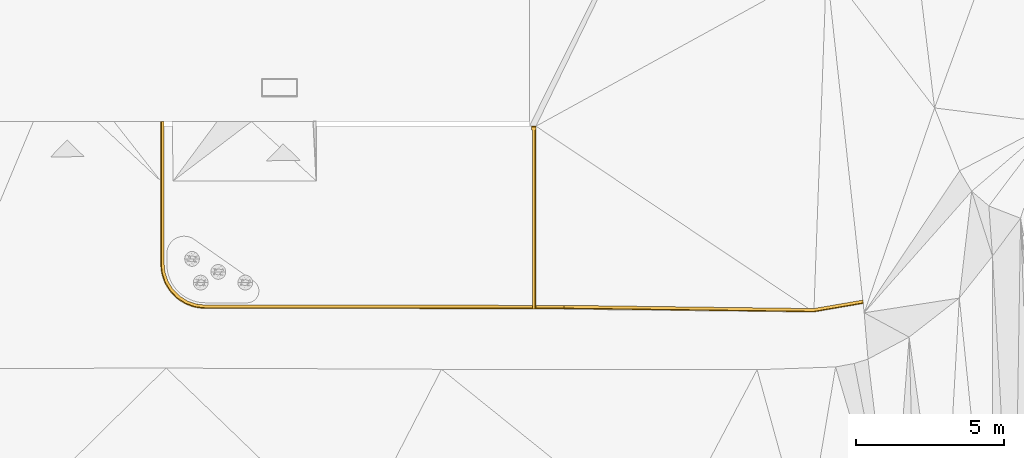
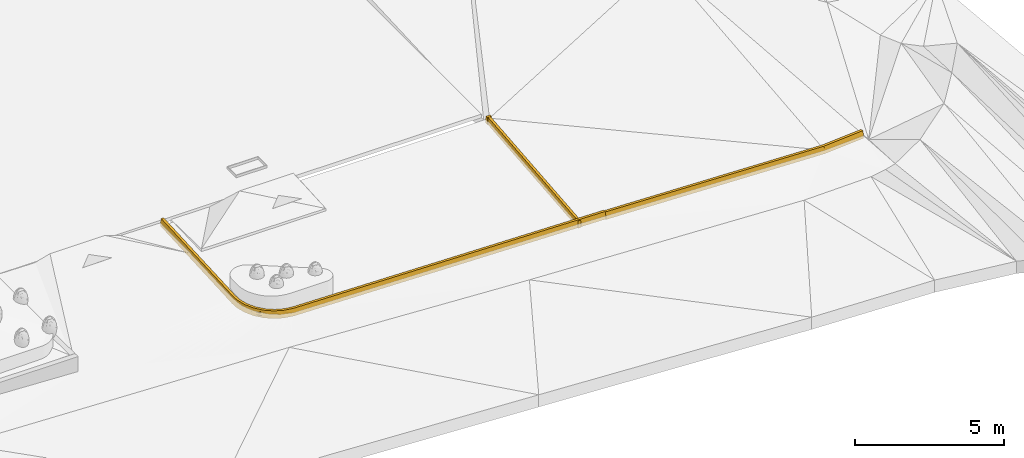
# One storey, part 20 of 23: 3 railings.
"""IFC2X3 building model written with IfcOpenShell, lengths in metres."""

from ifc_helpers import new_model, entity, si_unit, converted_unit, direction, frame, origin, place, context, subcontext, project, spatial, faceted_brep, material, type_object, element, save


model = new_model("IFC2X3")

# Units and contexts
model_context = context("Model", 3, precision=1e-05, world=origin(), true_north=direction((0.7716245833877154, 0.6360782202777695)))
body_context = subcontext(model_context, "Body", "Model", "MODEL_VIEW")
ifc_project = project(units=[si_unit("LENGTHUNIT", "METRE"), converted_unit("PLANEANGLEUNIT", "DEGREE", entity("IfcPlaneAngleMeasure", 0.017453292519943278), si_unit("PLANEANGLEUNIT", "RADIAN"), dimensions=[0, 0, 0, 0, 0, 0, 0]), si_unit("AREAUNIT", "SQUARE_METRE")], contexts=[model_context])

# Site, building, storey
site_placement = place(None, origin())
site = spatial("IfcSite", under=ifc_project, at=site_placement, Name="Default", CompositionType="ELEMENT")
building_placement = place(site_placement, origin())
building = spatial("IfcBuilding", under=site, at=building_placement, Name="<Building Name>", CompositionType="ELEMENT")
storey_placement = place(building_placement, origin())
storey = spatial("IfcBuildingStorey", under=building, at=storey_placement, Name="00 - HAV", CompositionType="ELEMENT", Elevation=0.0)

# Railings
ifc_material = material(Name="Site - Concrete - Curb")
railing_type = type_object("IfcRailingType", Name="Railing:760 Kantstein 120x300mm", PredefinedType="NOTDEFINED")
railing_1_placement = place(storey_placement, frame((279.1531523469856, 46.7718519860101, 29.797756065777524)))
element("IfcRailing", 1, at=railing_1_placement, inside=storey, type_object=railing_type, material=ifc_material, Name="Railing:760 Kantstein 120x300mm", ObjectType="Railing:760 Kantstein 120x300mm", PredefinedType="NOTDEFINED", context=body_context, shape_type="Brep", body=[
    faceted_brep([(10.076055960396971, 0.2878203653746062, 0.1586272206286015), (10.076055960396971, 0.28782036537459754, 0.0), (10.055723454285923, 0.4060852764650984, 0.0), (10.055723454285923, 0.40608527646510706, 0.30077601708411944), (10.071820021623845, 0.3124588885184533, 0.30077601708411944), (8.401936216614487, 0.0, 0.2808866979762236), (8.402266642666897, 0.025423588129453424, 0.42270201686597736), (8.40352226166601, 0.1220332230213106, 0.42143480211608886), (8.40352226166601, 0.12203322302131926, 0.12065878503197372), (8.401936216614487, 0.0, 0.12225947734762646)], [[[0, 1, 2, 3, 4]], [[5, 6, 7, 8, 9]], [[0, 4, 6, 5]], [[4, 3, 7, 6]], [[3, 2, 8, 7]], [[2, 1, 9, 8]], [[1, 0, 5, 9]]]),
    faceted_brep([(8.401949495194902, 0.001021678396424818, 0.2805829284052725), (8.401949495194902, 0.001021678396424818, 0.12232804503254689), (8.403508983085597, 0.12101154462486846, 0.12232804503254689), (8.403508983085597, 0.12101154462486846, 0.4223980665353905), (8.402274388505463, 0.02601956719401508, 0.4223980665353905), (0.0, 0.11022038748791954, 0.4621395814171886), (0.0003248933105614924, 0.13521827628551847, 0.6039547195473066), (0.0015594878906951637, 0.2302102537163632, 0.6039547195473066), (0.0015594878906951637, 0.2302102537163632, 0.30388469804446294), (0.0, 0.11022038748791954, 0.30388469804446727)], [[[0, 1, 2, 3, 4]], [[5, 6, 7, 8, 9]], [[0, 4, 6, 5]], [[4, 3, 7, 6]], [[3, 2, 8, 7]], [[2, 1, 9, 8]], [[1, 0, 5, 9]]]),
])
railing_2_placement = place(storey_placement, frame((278.0531523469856, 46.88207237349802, 30.1203354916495)))
element("IfcRailing", 2, at=railing_2_placement, inside=storey, type_object=railing_type, material=ifc_material, Name="Railing:760 Kantstein 120x300mm", ObjectType="Railing:760 Kantstein 120x300mm", PredefinedType="NOTDEFINED", context=body_context, shape_type="Brep", body=[
    faceted_brep([(0.15000000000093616, 0.0, 0.158941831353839), (0.1250000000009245, 0.0, 0.3013725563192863), (0.030000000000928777, 0.0, 0.3013725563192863), (0.030000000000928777, 0.0, 0.0), (0.1500000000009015, 0.0, 0.0), (0.15000000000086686, 6.030120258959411, 0.7364280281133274), (0.1500000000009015, 6.030120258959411, 0.5774861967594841), (0.030000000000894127, 6.030120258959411, 0.5774861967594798), (0.030000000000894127, 6.030120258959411, 0.8788587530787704), (0.12500000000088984, 6.030120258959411, 0.8788587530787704)], [[[0, 1, 2, 3, 4]], [[5, 6, 7, 8, 9]], [[1, 0, 5, 9]], [[2, 1, 9, 8]], [[3, 2, 8, 7]], [[4, 3, 7, 6]], [[0, 4, 6, 5]]]),
    faceted_brep([(0.15000000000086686, 6.150120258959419, 0.7478824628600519), (0.15000000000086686, 6.125120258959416, 0.8896645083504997), (0.15000000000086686, 6.030120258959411, 0.8896645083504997), (0.15000000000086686, 6.030120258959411, 0.5896645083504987), (0.15000000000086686, 6.150120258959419, 0.5896645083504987), (0.0, 6.150120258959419, 0.7478824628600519), (0.0, 6.15012025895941, 0.5896645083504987), (0.0, 6.030120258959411, 0.5896645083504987), (0.0, 6.030120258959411, 0.8896645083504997), (0.0, 6.125120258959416, 0.8896645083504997)], [[[0, 1, 2, 3, 4]], [[5, 6, 7, 8, 9]], [[1, 0, 5, 9]], [[2, 1, 9, 8]], [[3, 2, 8, 7]], [[4, 3, 7, 6]], [[0, 4, 6, 5]]]),
])
railing_3_placement = place(storey_placement, frame((265.56063656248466, 46.882072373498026, 30.12426063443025)))
element("IfcRailing", 3, at=railing_3_placement, inside=storey, type_object=railing_type, material=ifc_material, Name="Railing:760 Kantstein 120x300mm", ObjectType="Railing:760 Kantstein 120x300mm", PredefinedType="NOTDEFINED", context=body_context, shape_type="Brep", body=[
    faceted_brep([(13.592515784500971, 0.0, 0.15825297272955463), (13.592515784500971, 0.0, 0.0), (13.592612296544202, 0.1199999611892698, 0.0), (13.592612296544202, 0.11999996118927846, 0.30006639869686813), (13.59253589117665, 0.024999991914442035, 0.30006639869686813), (1.5713809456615, 0.034668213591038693, 0.5529988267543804), (1.5655613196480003, 0.009672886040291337, 0.41130742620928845), (1.5714573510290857, 0.12966818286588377, 0.552998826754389), (1.5591860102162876, 0.1296780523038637, 0.253190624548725), (1.559089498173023, 0.009678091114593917, 0.25319062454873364), (1.5004028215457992, 0.00972529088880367, 0.4152725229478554), (1.5004229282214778, 0.03472528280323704, 0.5573168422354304), (1.5004993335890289, 0.12972525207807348, 0.5573168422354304), (1.5004993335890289, 0.12972525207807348, 0.2567618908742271), (1.5004028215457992, 0.009725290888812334, 0.2567618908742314)], [[[0, 1, 2, 3, 4]], [[0, 4, 5, 6]], [[4, 3, 7, 5]], [[3, 2, 8, 7]], [[2, 1, 9, 8]], [[1, 0, 6, 9]], [[10, 11, 12, 13, 14]], [[9, 6, 10, 14]], [[8, 9, 14, 13]], [[7, 8, 13, 12]], [[5, 7, 12, 11]], [[6, 5, 11, 10]]]),
    faceted_brep([(1.140113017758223, 0.06611455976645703, 0.49923026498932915), (1.0584191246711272, 0.07669821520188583, 0.43628623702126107), (1.2000816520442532, 0.055232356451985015, 0.4295483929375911), (1.212727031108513, 0.05331622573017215, 0.42894694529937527), (1.5004128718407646, 0.022221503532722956, 0.486217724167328), (1.5004229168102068, 0.03471109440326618, 0.5571722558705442), (1.3586299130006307, 0.05127271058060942, 0.5638471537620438), (0.8432795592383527, 0.1897675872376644, 0.5913882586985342), (0.8190755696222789, 0.18782959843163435, 0.5204038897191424), (0.9693832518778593, 0.11946441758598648, 0.5059287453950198), (0.1108939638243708, 0.985839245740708, 0.5921942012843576), (0.10194784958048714, 1.0764059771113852, 0.6597446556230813), (0.060626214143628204, 1.1424910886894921, 0.5955167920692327), (0.051700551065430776, 1.238718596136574, 0.6686508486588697), (0.02482390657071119, 1.3245499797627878, 0.597086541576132), (0.7010186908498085, 0.28257729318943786, 0.6012742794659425), (0.6152354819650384, 0.31564583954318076, 0.5376306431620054), (1.3169367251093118, 0.03263132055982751, 0.4881377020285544), (1.1628002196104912, 0.07414588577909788, 0.5730658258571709), (0.17661850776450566, 0.8353588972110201, 0.579674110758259), (0.1521951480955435, 0.9140933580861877, 0.6508384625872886), (0.044985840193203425, 1.221901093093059, 0.5254569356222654), (0.1651324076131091, 0.8663722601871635, 0.5058062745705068), (1.003039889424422, 0.13195673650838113, 0.5822270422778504), (0.4589918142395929, 0.46794526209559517, 0.4772085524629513), (0.48004641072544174, 0.42960675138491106, 0.5503951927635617), (0.0016091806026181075, 1.5097248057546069, 0.5391398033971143), (0.014105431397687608, 1.5097248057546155, 0.6100926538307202), (0.2620380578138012, 0.6650574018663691, 0.49348680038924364), (0.31482287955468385, 0.6120121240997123, 0.557006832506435), (0.02659528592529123, 1.5097248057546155, 0.6810466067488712), (1.350242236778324, 0.032478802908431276, 0.42240635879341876), (1.5004028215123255, 0.009725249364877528, 0.4152643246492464), (0.06822675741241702, 1.067687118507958, 0.5181257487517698), (0.02425086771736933, 1.3594869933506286, 0.5319976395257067), (0.04689255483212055, 1.2092491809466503, 0.5248554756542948), (0.857182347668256, 0.17376566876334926, 0.4486082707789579), (0.6559455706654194, 0.2708331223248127, 0.4609303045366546), (1.2652908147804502, 0.062174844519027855, 0.5682410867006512), (0.36051493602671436, 0.5665013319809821, 0.48534767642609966), (0.23822876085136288, 0.7676258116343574, 0.6410853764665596), (0.5587578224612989, 0.3753869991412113, 0.6111603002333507), (0.4415100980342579, 0.4982726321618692, 0.6212462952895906), (0.3242623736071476, 0.621158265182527, 0.6313322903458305), (1.5004993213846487, 0.1297100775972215, 0.5571910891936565), (1.2393663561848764, 0.15484985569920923, 0.5700967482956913), (1.5004611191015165, 0.08221059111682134, 0.5571813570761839), (1.083418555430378, 0.2048258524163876, 0.5793696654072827), (0.9274707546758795, 0.25480184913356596, 0.5886425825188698), (0.9384338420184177, 0.19502266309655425, 0.5866289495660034), (1.0771899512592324, 0.13978083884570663, 0.5783149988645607), (1.2226301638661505, 0.10850342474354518, 0.5704725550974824), (0.3314080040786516, 0.7967758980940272, 0.639754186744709), (0.23010763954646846, 0.8580642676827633, 0.6460795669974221), (0.31126995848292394, 0.714410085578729, 0.6363099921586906), (0.7901902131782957, 0.26752261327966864, 0.5962299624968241), (0.7877317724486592, 0.34009021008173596, 0.5987613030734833), (0.6528310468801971, 0.3590551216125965, 0.6061351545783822), (0.524828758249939, 0.4631887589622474, 0.6162030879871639), (0.24622927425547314, 0.9365844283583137, 0.6498405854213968), (0.4165867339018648, 0.656967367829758, 0.629667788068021), (0.1618420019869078, 1.0029539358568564, 0.6552109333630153), (0.19637727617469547, 1.0925757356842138, 0.6590558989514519), (0.4124824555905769, 0.5840601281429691, 0.626307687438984), (0.5322897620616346, 0.5411729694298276, 0.6192739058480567), (0.0866314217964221, 1.3320388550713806, 0.6728844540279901), (0.1215943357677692, 1.5097248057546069, 0.6810651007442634), (0.07409481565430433, 1.5097248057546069, 0.6810555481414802), (0.14652527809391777, 1.2485670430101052, 0.6682712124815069), (0.11773981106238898, 1.1568025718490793, 0.6638837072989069), (0.647992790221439, 0.42537857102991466, 0.6088800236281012), (1.2393603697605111, 0.15485159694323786, 0.26968307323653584), (1.3128079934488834, 0.14270484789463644, 0.4188635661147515), (1.5004993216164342, 0.12971036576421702, 0.25688911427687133), (0.9274579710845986, 0.2548068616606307, 0.28811372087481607), (0.7877179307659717, 0.34009828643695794, 0.29820013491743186), (0.9347328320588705, 0.2515326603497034, 0.4298984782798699), (0.7898277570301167, 0.32745612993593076, 0.44116175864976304), (1.0877843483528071, 0.1932391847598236, 0.4224988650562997), (0.4165751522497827, 0.6569828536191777, 0.32907435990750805), (0.3274868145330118, 0.7845823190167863, 0.48205253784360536), (0.4224201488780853, 0.649645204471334, 0.48648517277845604), (1.0834091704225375, 0.20482922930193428, 0.2788983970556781), (0.18947803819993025, 1.082292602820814, 0.5019815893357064), (0.14652295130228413, 1.2485760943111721, 0.36785770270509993), (0.13443774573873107, 1.3220239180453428, 0.5190913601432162), (1.5004993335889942, 0.1297252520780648, 0.4070401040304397), (0.6479778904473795, 0.4253897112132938, 0.30828654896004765), (0.5315135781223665, 0.528239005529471, 0.4613920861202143), (0.6553831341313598, 0.41963812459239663, 0.4659148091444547), (0.24995096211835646, 0.9285663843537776, 0.5064627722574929), (0.532276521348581, 0.5411862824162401, 0.31868045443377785), (0.3313992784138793, 0.7967909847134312, 0.33919310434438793), (0.24622340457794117, 0.9365991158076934, 0.34931184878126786), (0.19637317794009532, 1.0925876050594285, 0.35858477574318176), (0.12159404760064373, 1.5097248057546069, 0.38076312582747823), (0.12160922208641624, 1.5097248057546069, 0.530914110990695), (1.500451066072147, 0.0697109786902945, 0.25690107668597), (1.5004028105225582, 0.009711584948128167, 0.2569120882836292), (1.3655956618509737, 0.025457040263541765, 0.2631069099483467), (1.2687532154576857, 0.08352268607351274, 0.2675992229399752), (1.1055053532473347, 0.12375841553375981, 0.2761852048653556), (1.1570564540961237, 0.04981438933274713, 0.27268995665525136), (0.9945862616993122, 0.10860647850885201, 0.2818056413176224), (0.9326115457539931, 0.18311659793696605, 0.2861858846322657), (0.4020442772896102, 0.5761511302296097, 0.32579761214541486), (0.29964750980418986, 0.7076113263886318, 0.3358226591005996), (0.5149627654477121, 0.4538175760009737, 0.315697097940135), (1.3487237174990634, 0.02742768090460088, 0.26388223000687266), (0.7826877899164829, 0.2560069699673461, 0.29575803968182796), (0.8321160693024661, 0.1673985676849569, 0.2909213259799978), (0.6444341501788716, 0.34888008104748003, 0.3056329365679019), (0.12931966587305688, 0.9040107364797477, 0.35038726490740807), (0.2182685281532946, 0.8527933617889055, 0.3456144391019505), (0.21680981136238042, 0.7550606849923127, 0.34060535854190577), (0.30429995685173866, 0.6061106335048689, 0.33082345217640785), (0.14897542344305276, 0.9982375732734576, 0.3547569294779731), (0.5427691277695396, 0.3561693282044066, 0.31064579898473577), (0.4235345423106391, 0.4811399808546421, 0.3207346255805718), (0.07339250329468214, 1.3302572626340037, 0.37252887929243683), (0.0015952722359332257, 1.5097248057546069, 0.38078651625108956), (0.06159466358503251, 1.5097248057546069, 0.38077531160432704), (0.6874425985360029, 0.26178394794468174, 0.300783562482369), (0.027124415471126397, 1.234132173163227, 0.3682973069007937), (0.10545730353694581, 1.1531306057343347, 0.3634424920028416), (0.07822204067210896, 1.0690714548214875, 0.3593422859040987), (1.5004028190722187, 0.009722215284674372, 0.33608820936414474), (1.2932635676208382, 0.024264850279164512, 0.34467789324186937), (0.1037942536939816, 0.9655525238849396, 0.44123008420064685), (0.1711052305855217, 0.8170755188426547, 0.4159994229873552), (1.1237307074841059, 0.058101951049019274, 0.35632822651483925), (0.04764570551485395, 1.140951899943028, 0.4404005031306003), (0.9489737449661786, 0.11523419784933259, 0.3716615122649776), (0.014214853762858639, 1.3156685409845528, 0.4474648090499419), (0.6179630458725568, 0.2976236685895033, 0.36976627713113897), (0.7469042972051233, 0.21341346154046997, 0.3772525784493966), (0.2566075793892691, 0.6730699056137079, 0.4092845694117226), (0.3734266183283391, 0.5211853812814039, 0.40200982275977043), (0.001606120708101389, 1.5097248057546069, 0.459963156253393), (0.5002727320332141, 0.3928854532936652, 0.3959758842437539)], [[[0, 1, 2, 3]], [[4, 5, 6]], [[7, 8, 9]], [[10, 11, 12]], [[13, 14, 12]], [[15, 16, 8]], [[0, 17, 18]], [[19, 20, 10]], [[21, 12, 14]], [[22, 19, 10]], [[23, 9, 0]], [[0, 3, 17]], [[24, 16, 25]], [[26, 14, 27]], [[28, 29, 19]], [[7, 9, 23]], [[14, 13, 30]], [[17, 3, 31, 32]], [[4, 6, 17]], [[14, 30, 27]], [[0, 18, 23]], [[10, 33, 22]], [[32, 4, 17]], [[14, 26, 34, 21]], [[12, 21, 35, 33]], [[8, 36, 9]], [[0, 9, 1]], [[24, 37, 16]], [[36, 1, 9]], [[17, 6, 38, 18]], [[25, 29, 39]], [[20, 19, 40]], [[28, 19, 22]], [[11, 13, 12]], [[33, 10, 12]], [[10, 20, 11]], [[41, 16, 15]], [[37, 36, 8]], [[8, 7, 15]], [[28, 39, 29]], [[16, 41, 25]], [[8, 16, 37]], [[29, 42, 43]], [[25, 39, 24]], [[42, 29, 25]], [[40, 19, 29]], [[29, 43, 40]], [[25, 41, 42]], [[44, 45, 46]], [[46, 38, 6, 5]], [[47, 48, 49]], [[50, 18, 51]], [[52, 53, 54]], [[55, 56, 57]], [[51, 46, 45]], [[43, 54, 40]], [[46, 51, 38]], [[49, 23, 50]], [[51, 45, 47]], [[38, 51, 18]], [[41, 15, 57]], [[49, 7, 23]], [[41, 57, 58]], [[53, 52, 59]], [[54, 60, 52]], [[41, 58, 42]], [[61, 59, 62]], [[42, 63, 43]], [[64, 63, 58]], [[65, 66, 67]], [[55, 7, 49]], [[53, 20, 40]], [[65, 30, 13]], [[68, 69, 62]], [[49, 50, 47]], [[7, 55, 15]], [[69, 65, 13]], [[57, 56, 70]], [[70, 64, 58]], [[63, 64, 60]], [[43, 63, 54]], [[48, 56, 55]], [[69, 68, 65]], [[69, 61, 62]], [[69, 11, 61]], [[53, 61, 20]], [[66, 65, 68]], [[65, 67, 30]], [[55, 49, 48]], [[15, 55, 57]], [[58, 57, 70]], [[42, 58, 63]], [[54, 63, 60]], [[40, 54, 53]], [[61, 53, 59]], [[18, 50, 23]], [[11, 69, 13]], [[11, 20, 61]], [[47, 50, 51]], [[71, 72, 73]], [[74, 75, 76]], [[76, 75, 77]], [[78, 72, 71]], [[79, 80, 81]], [[78, 71, 82]], [[83, 84, 85]], [[86, 72, 44]], [[72, 86, 73]], [[76, 47, 78]], [[87, 88, 89]], [[44, 72, 45]], [[89, 56, 77]], [[90, 83, 59]], [[88, 87, 91, 79]], [[81, 80, 60]], [[80, 79, 92, 93]], [[93, 83, 90]], [[83, 93, 94, 84]], [[75, 87, 77]], [[56, 48, 77]], [[85, 95, 96]], [[72, 78, 45]], [[90, 52, 80]], [[85, 66, 68]], [[83, 68, 62, 59]], [[95, 85, 84]], [[89, 88, 70]], [[66, 85, 96]], [[56, 89, 70]], [[48, 76, 77]], [[81, 64, 88]], [[76, 82, 74]], [[83, 85, 68]], [[82, 76, 78]], [[47, 76, 48]], [[47, 45, 78]], [[64, 70, 88]], [[87, 89, 77]], [[64, 81, 60]], [[52, 60, 80]], [[79, 81, 88]], [[52, 90, 59]], [[93, 90, 80]], [[97, 98, 99]], [[99, 100, 97]], [[101, 100, 102]], [[103, 104, 101]], [[105, 106, 79]], [[107, 91, 87]], [[97, 100, 73]], [[100, 101, 71]], [[100, 99, 108, 102]], [[109, 75, 74]], [[100, 71, 73]], [[101, 82, 71]], [[104, 109, 74]], [[110, 104, 103]], [[111, 107, 87]], [[112, 113, 114]], [[106, 115, 114]], [[91, 105, 79]], [[94, 93, 116]], [[107, 117, 118]], [[115, 105, 118]], [[119, 120, 121]], [[122, 111, 109]], [[120, 119, 123]], [[119, 95, 84]], [[116, 113, 112]], [[75, 111, 87]], [[117, 111, 122]], [[124, 123, 119]], [[109, 110, 122]], [[118, 105, 107]], [[106, 92, 79]], [[114, 113, 106]], [[82, 104, 74]], [[92, 113, 93]], [[124, 84, 94]], [[113, 116, 93]], [[116, 125, 124]], [[95, 119, 121]], [[84, 124, 119]], [[75, 109, 111]], [[110, 109, 104]], [[91, 107, 105]], [[117, 107, 111]], [[92, 106, 113]], [[115, 106, 105]], [[103, 101, 102]], [[104, 82, 101]], [[125, 123, 124]], [[94, 116, 124]], [[116, 112, 125]], [[126, 31, 127]], [[22, 128, 129]], [[130, 2, 1]], [[128, 131, 125]], [[112, 114, 129]], [[132, 103, 130]], [[108, 127, 102]], [[127, 31, 3, 2]], [[133, 123, 131]], [[1, 36, 132]], [[134, 122, 135]], [[1, 132, 130]], [[136, 115, 137]], [[136, 114, 115]], [[128, 22, 33]], [[34, 26, 138]], [[103, 102, 130]], [[133, 35, 21, 34]], [[35, 133, 131]], [[128, 125, 112]], [[2, 130, 127]], [[139, 24, 137]], [[37, 135, 36]], [[33, 35, 131]], [[120, 123, 133]], [[126, 108, 99, 98]], [[135, 132, 36]], [[137, 24, 39, 28]], [[131, 128, 33]], [[126, 32, 31]], [[114, 136, 129]], [[129, 28, 22]], [[139, 118, 117]], [[136, 137, 28]], [[118, 139, 137]], [[37, 139, 134]], [[132, 135, 110]], [[34, 138, 133]], [[120, 133, 138]], [[129, 136, 28]], [[112, 129, 128]], [[131, 123, 125]], [[37, 134, 135]], [[37, 24, 139]], [[137, 115, 118]], [[134, 117, 122]], [[122, 110, 135]], [[117, 134, 139]], [[102, 127, 130]], [[126, 127, 108]], [[132, 110, 103]], [[86, 44, 46, 5, 4, 32, 126, 98, 97, 73]], [[120, 138, 26, 27, 30, 67, 66, 96, 95, 121]]]),
    faceted_brep([(0.0016092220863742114, 1.5097248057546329, 0.5391480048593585), (0.0016092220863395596, 1.5097248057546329, 0.38063737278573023), (0.12160922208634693, 1.5097248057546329, 0.38063737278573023), (0.12160922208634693, 1.5097248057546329, 0.6811923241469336), (0.026609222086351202, 1.5097248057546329, 0.6811923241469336), (0.026609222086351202, 1.92692753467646, 0.7065803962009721), (0.0016092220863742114, 1.9351120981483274, 0.5650341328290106), (0.12160922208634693, 1.92692753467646, 0.7065803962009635), (0.12160922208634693, 1.9442454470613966, 0.40707929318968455), (0.0016092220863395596, 1.9442454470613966, 0.4070792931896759), (0.0016092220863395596, 4.310443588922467, 0.6951857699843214), (0.026609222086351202, 4.310443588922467, 0.8371804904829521), (0.12160922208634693, 4.310443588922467, 0.8371804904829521), (0.12160922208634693, 4.310443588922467, 0.53673048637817), (0.0016092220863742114, 4.310443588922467, 0.5367304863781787)], [[[0, 1, 2, 3, 4]], [[0, 4, 5, 6]], [[4, 3, 7, 5]], [[3, 2, 8, 7]], [[2, 1, 9, 8]], [[1, 0, 6, 9]], [[10, 11, 12, 13, 14]], [[9, 6, 10, 14]], [[8, 9, 14, 13]], [[7, 8, 13, 12]], [[5, 7, 12, 11]], [[6, 5, 11, 10]]]),
    faceted_brep([(0.0016092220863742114, 4.310443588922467, 0.695185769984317), (0.0016092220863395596, 4.310443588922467, 0.5367304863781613), (0.12160922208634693, 4.310443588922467, 0.5367304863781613), (0.12160922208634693, 4.310443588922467, 0.8371804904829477), (0.026609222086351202, 4.310443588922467, 0.8371804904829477), (0.0016092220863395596, 6.310443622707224, 0.8047718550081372), (0.026609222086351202, 6.310443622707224, 0.9467665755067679), (0.12160922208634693, 6.310443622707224, 0.9467665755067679), (0.12160922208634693, 6.310443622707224, 0.6463165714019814), (0.0016092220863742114, 6.310443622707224, 0.6463165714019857)], [[[0, 1, 2, 3, 4]], [[5, 6, 7, 8, 9]], [[0, 4, 6, 5]], [[4, 3, 7, 6]], [[3, 2, 8, 7]], [[2, 1, 9, 8]], [[1, 0, 5, 9]]]),
])

save(model, "model.ifc")
